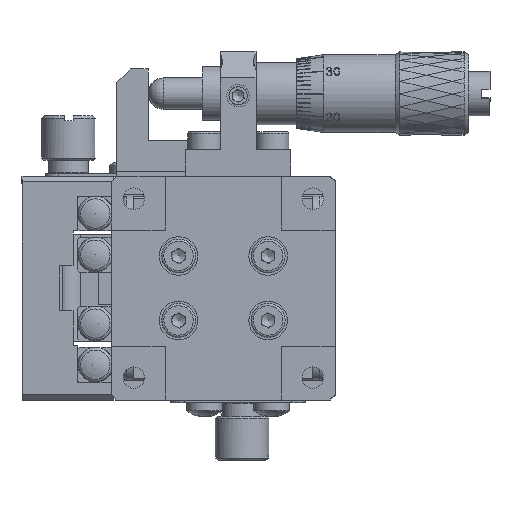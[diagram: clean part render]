
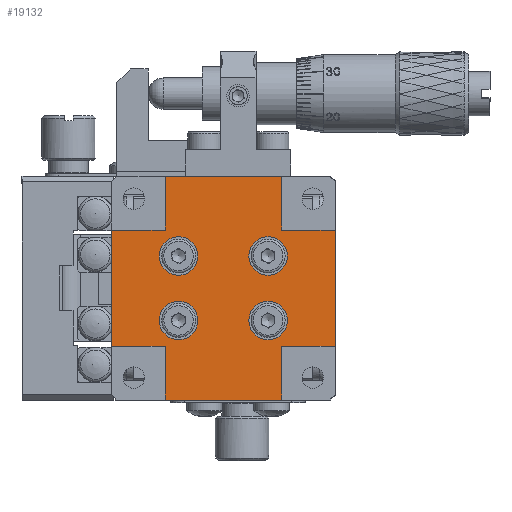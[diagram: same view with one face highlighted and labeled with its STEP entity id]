
A CAD part, front view. The second image highlights one B-rep face of the part: STEP entity #19132.
In plain terms, the highlighted planar face has unit normal (0, -1, 0).
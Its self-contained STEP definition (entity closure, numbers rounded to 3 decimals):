
#1560 = CARTESIAN_POINT ( 'NONE',  ( 19.308, 25.69, 57.394 ) ) ;
#2082 = LINE ( 'NONE', #30750, #8151 ) ;
#2522 = CIRCLE ( 'NONE', #41587, 2.15 ) ;
#2580 = CARTESIAN_POINT ( 'NONE',  ( 28.958, 25.69, 47.294 ) ) ;
#2861 = PLANE ( 'NONE',  #68436 ) ;
#3116 = VERTEX_POINT ( 'NONE', #62446 ) ;
#3319 = DIRECTION ( 'NONE',  ( 0., -1., 0. ) ) ;
#3790 = ORIENTED_EDGE ( 'NONE', *, *, #67618, .F. ) ;
#4304 = DIRECTION ( 'NONE',  ( -1., 0., 0. ) ) ;
#5637 = LINE ( 'NONE', #67716, #64215 ) ;
#8151 = VECTOR ( 'NONE', #66843, 1000. ) ;
#8770 = VECTOR ( 'NONE', #75876, 1000. ) ;
#9251 = CARTESIAN_POINT ( 'NONE',  ( 22.958, 25.69, 41.294 ) ) ;
#9589 = LINE ( 'NONE', #80521, #89437 ) ;
#10366 = CARTESIAN_POINT ( 'NONE',  ( 9.958, 25.69, 66.294 ) ) ;
#10494 = EDGE_CURVE ( 'NONE', #21878, #3116, #46550, .T. ) ;
#10533 = CARTESIAN_POINT ( 'NONE',  ( 22.958, 25.69, 66.294 ) ) ;
#10956 = ORIENTED_EDGE ( 'NONE', *, *, #61203, .T. ) ;
#11906 = CARTESIAN_POINT ( 'NONE',  ( 9.308, 25.69, 50.194 ) ) ;
#12482 = VECTOR ( 'NONE', #35264, 1000. ) ;
#12940 = LINE ( 'NONE', #35486, #38943 ) ;
#13175 = EDGE_CURVE ( 'NONE', #52789, #52789, #49543, .T. ) ;
#14287 = CARTESIAN_POINT ( 'NONE',  ( 11.458, 25.69, 50.194 ) ) ;
#14826 = CARTESIAN_POINT ( 'NONE',  ( 21.458, 25.69, 50.194 ) ) ;
#15380 = ORIENTED_EDGE ( 'NONE', *, *, #41119, .F. ) ;
#15734 = ORIENTED_EDGE ( 'NONE', *, *, #41077, .T. ) ;
#16108 = CARTESIAN_POINT ( 'NONE',  ( 28.958, 25.69, 60.294 ) ) ;
#16758 = EDGE_LOOP ( 'NONE', ( #20243 ) ) ;
#17171 = DIRECTION ( 'NONE',  ( 1., 0., 0. ) ) ;
#18707 = EDGE_CURVE ( 'NONE', #71494, #32559, #31308, .T. ) ;
#19132 = ADVANCED_FACE ( 'NONE', ( #31994, #38090, #30597, #52188, #60601 ), #2861, .T. ) ;
#19507 = DIRECTION ( 'NONE',  ( -1., 0., 0. ) ) ;
#20143 = LINE ( 'NONE', #63777, #48313 ) ;
#20243 = ORIENTED_EDGE ( 'NONE', *, *, #54975, .T. ) ;
#21878 = VERTEX_POINT ( 'NONE', #54712 ) ;
#22144 = CARTESIAN_POINT ( 'NONE',  ( 19.308, 25.69, 50.194 ) ) ;
#24244 = CARTESIAN_POINT ( 'NONE',  ( 28.958, 25.69, 60.294 ) ) ;
#25815 = ORIENTED_EDGE ( 'NONE', *, *, #28976, .T. ) ;
#26375 = CIRCLE ( 'NONE', #44439, 2.15 ) ;
#27488 = CARTESIAN_POINT ( 'NONE',  ( 3.958, 25.69, 41.294 ) ) ;
#27875 = CARTESIAN_POINT ( 'NONE',  ( 9.958, 25.69, 41.294 ) ) ;
#27974 = VERTEX_POINT ( 'NONE', #75344 ) ;
#28976 = EDGE_CURVE ( 'NONE', #27974, #54317, #92714, .T. ) ;
#29146 = LINE ( 'NONE', #79373, #12482 ) ;
#29290 = VERTEX_POINT ( 'NONE', #1560 ) ;
#30597 = FACE_BOUND ( 'NONE', #52866, .T. ) ;
#30750 = CARTESIAN_POINT ( 'NONE',  ( 28.958, 25.69, 41.294 ) ) ;
#30933 = CARTESIAN_POINT ( 'NONE',  ( 3.958, 25.69, 47.294 ) ) ;
#31308 = LINE ( 'NONE', #24244, #84989 ) ;
#31994 = FACE_BOUND ( 'NONE', #16758, .T. ) ;
#32559 = VERTEX_POINT ( 'NONE', #16108 ) ;
#33830 = DIRECTION ( 'NONE',  ( 0., 0., 1. ) ) ;
#33900 = VECTOR ( 'NONE', #4304, 1000. ) ;
#34565 = EDGE_LOOP ( 'NONE', ( #90214 ) ) ;
#35264 = DIRECTION ( 'NONE',  ( 0., 0., -1. ) ) ;
#35486 = CARTESIAN_POINT ( 'NONE',  ( 3.958, 25.69, 47.294 ) ) ;
#37024 = ORIENTED_EDGE ( 'NONE', *, *, #82155, .F. ) ;
#38090 = FACE_BOUND ( 'NONE', #34565, .T. ) ;
#38930 = EDGE_CURVE ( 'NONE', #78395, #45750, #2082, .T. ) ;
#38943 = VECTOR ( 'NONE', #55681, 1000. ) ;
#39299 = LINE ( 'NONE', #40685, #8770 ) ;
#39803 = VECTOR ( 'NONE', #56121, 1000. ) ;
#40259 = VERTEX_POINT ( 'NONE', #76840 ) ;
#40685 = CARTESIAN_POINT ( 'NONE',  ( 28.958, 25.69, 41.294 ) ) ;
#41077 = EDGE_CURVE ( 'NONE', #49388, #3116, #81005, .T. ) ;
#41119 = EDGE_CURVE ( 'NONE', #57448, #75062, #75658, .T. ) ;
#41352 = VECTOR ( 'NONE', #91146, 1000. ) ;
#41587 = AXIS2_PLACEMENT_3D ( 'NONE', #74749, #75202, #48001 ) ;
#42202 = ORIENTED_EDGE ( 'NONE', *, *, #10494, .F. ) ;
#42647 = CARTESIAN_POINT ( 'NONE',  ( 9.958, 25.69, 47.294 ) ) ;
#44439 = AXIS2_PLACEMENT_3D ( 'NONE', #14826, #49164, #57112 ) ;
#45750 = VERTEX_POINT ( 'NONE', #9251 ) ;
#46550 = LINE ( 'NONE', #10366, #88315 ) ;
#46555 = CARTESIAN_POINT ( 'NONE',  ( 16.458, 25.69, 53.794 ) ) ;
#47257 = CARTESIAN_POINT ( 'NONE',  ( 22.958, 25.69, 47.294 ) ) ;
#48001 = DIRECTION ( 'NONE',  ( -1., 0., 0. ) ) ;
#48313 = VECTOR ( 'NONE', #70800, 1000. ) ;
#49164 = DIRECTION ( 'NONE',  ( 0., 1., 0. ) ) ;
#49388 = VERTEX_POINT ( 'NONE', #10533 ) ;
#49543 = CIRCLE ( 'NONE', #81006, 2.15 ) ;
#49590 = CIRCLE ( 'NONE', #55553, 2.15 ) ;
#49995 = ORIENTED_EDGE ( 'NONE', *, *, #89331, .F. ) ;
#52188 = FACE_BOUND ( 'NONE', #75772, .T. ) ;
#52789 = VERTEX_POINT ( 'NONE', #11906 ) ;
#52866 = EDGE_LOOP ( 'NONE', ( #55222 ) ) ;
#54317 = VERTEX_POINT ( 'NONE', #30933 ) ;
#54712 = CARTESIAN_POINT ( 'NONE',  ( 9.958, 25.69, 60.294 ) ) ;
#54975 = EDGE_CURVE ( 'NONE', #40259, #40259, #2522, .T. ) ;
#55222 = ORIENTED_EDGE ( 'NONE', *, *, #80998, .T. ) ;
#55553 = AXIS2_PLACEMENT_3D ( 'NONE', #56702, #76879, #69809 ) ;
#55681 = DIRECTION ( 'NONE',  ( -1., 0., 0. ) ) ;
#56121 = DIRECTION ( 'NONE',  ( 0., 0., -1. ) ) ;
#56702 = CARTESIAN_POINT ( 'NONE',  ( 21.458, 25.69, 57.394 ) ) ;
#57112 = DIRECTION ( 'NONE',  ( -1., 0., 0. ) ) ;
#57448 = VERTEX_POINT ( 'NONE', #68398 ) ;
#57986 = EDGE_CURVE ( 'NONE', #78395, #60999, #5637, .T. ) ;
#60059 = ORIENTED_EDGE ( 'NONE', *, *, #38930, .T. ) ;
#60601 = FACE_OUTER_BOUND ( 'NONE', #70208, .T. ) ;
#60999 = VERTEX_POINT ( 'NONE', #42647 ) ;
#61203 = EDGE_CURVE ( 'NONE', #57448, #32559, #39299, .T. ) ;
#62446 = CARTESIAN_POINT ( 'NONE',  ( 9.958, 25.69, 66.294 ) ) ;
#62494 = CARTESIAN_POINT ( 'NONE',  ( 28.958, 25.69, 66.294 ) ) ;
#63777 = CARTESIAN_POINT ( 'NONE',  ( 3.958, 25.69, 60.294 ) ) ;
#64215 = VECTOR ( 'NONE', #81833, 1000. ) ;
#64659 = EDGE_CURVE ( 'NONE', #29290, #29290, #49590, .T. ) ;
#66843 = DIRECTION ( 'NONE',  ( 1., 0., 0. ) ) ;
#66856 = DIRECTION ( 'NONE',  ( 0., 0., -1. ) ) ;
#67618 = EDGE_CURVE ( 'NONE', #27974, #21878, #20143, .T. ) ;
#67716 = CARTESIAN_POINT ( 'NONE',  ( 9.958, 25.69, 41.294 ) ) ;
#68398 = CARTESIAN_POINT ( 'NONE',  ( 28.958, 25.69, 47.294 ) ) ;
#68436 = AXIS2_PLACEMENT_3D ( 'NONE', #46555, #3319, #82209 ) ;
#69809 = DIRECTION ( 'NONE',  ( -1., 0., 0. ) ) ;
#70208 = EDGE_LOOP ( 'NONE', ( #60059, #37024, #15380, #10956, #87713, #85389, #15734, #42202, #3790, #25815, #49995, #91548 ) ) ;
#70800 = DIRECTION ( 'NONE',  ( 1., 0., 0. ) ) ;
#71395 = VERTEX_POINT ( 'NONE', #22144 ) ;
#71494 = VERTEX_POINT ( 'NONE', #88930 ) ;
#74749 = CARTESIAN_POINT ( 'NONE',  ( 11.458, 25.69, 57.394 ) ) ;
#75062 = VERTEX_POINT ( 'NONE', #47257 ) ;
#75202 = DIRECTION ( 'NONE',  ( 0., 1., 0. ) ) ;
#75344 = CARTESIAN_POINT ( 'NONE',  ( 3.958, 25.69, 60.294 ) ) ;
#75658 = LINE ( 'NONE', #2580, #33900 ) ;
#75772 = EDGE_LOOP ( 'NONE', ( #85216 ) ) ;
#75876 = DIRECTION ( 'NONE',  ( 0., 0., 1. ) ) ;
#75912 = EDGE_CURVE ( 'NONE', #49388, #71494, #29146, .T. ) ;
#76840 = CARTESIAN_POINT ( 'NONE',  ( 9.308, 25.69, 57.394 ) ) ;
#76879 = DIRECTION ( 'NONE',  ( 0., 1., 0. ) ) ;
#78395 = VERTEX_POINT ( 'NONE', #27875 ) ;
#79373 = CARTESIAN_POINT ( 'NONE',  ( 22.958, 25.69, 66.294 ) ) ;
#80521 = CARTESIAN_POINT ( 'NONE',  ( 22.958, 25.69, 41.294 ) ) ;
#80998 = EDGE_CURVE ( 'NONE', #71395, #71395, #26375, .T. ) ;
#81005 = LINE ( 'NONE', #62494, #41352 ) ;
#81006 = AXIS2_PLACEMENT_3D ( 'NONE', #14287, #83820, #19507 ) ;
#81833 = DIRECTION ( 'NONE',  ( 0., 0., 1. ) ) ;
#82155 = EDGE_CURVE ( 'NONE', #75062, #45750, #9589, .T. ) ;
#82209 = DIRECTION ( 'NONE',  ( -1., 0., 0. ) ) ;
#83820 = DIRECTION ( 'NONE',  ( 0., 1., 0. ) ) ;
#84989 = VECTOR ( 'NONE', #17171, 1000. ) ;
#85216 = ORIENTED_EDGE ( 'NONE', *, *, #13175, .T. ) ;
#85389 = ORIENTED_EDGE ( 'NONE', *, *, #75912, .F. ) ;
#87713 = ORIENTED_EDGE ( 'NONE', *, *, #18707, .F. ) ;
#88315 = VECTOR ( 'NONE', #33830, 1000. ) ;
#88930 = CARTESIAN_POINT ( 'NONE',  ( 22.958, 25.69, 60.294 ) ) ;
#89331 = EDGE_CURVE ( 'NONE', #60999, #54317, #12940, .T. ) ;
#89437 = VECTOR ( 'NONE', #66856, 1000. ) ;
#90214 = ORIENTED_EDGE ( 'NONE', *, *, #64659, .T. ) ;
#91146 = DIRECTION ( 'NONE',  ( -1., 0., 0. ) ) ;
#91548 = ORIENTED_EDGE ( 'NONE', *, *, #57986, .F. ) ;
#92714 = LINE ( 'NONE', #27488, #39803 ) ;
